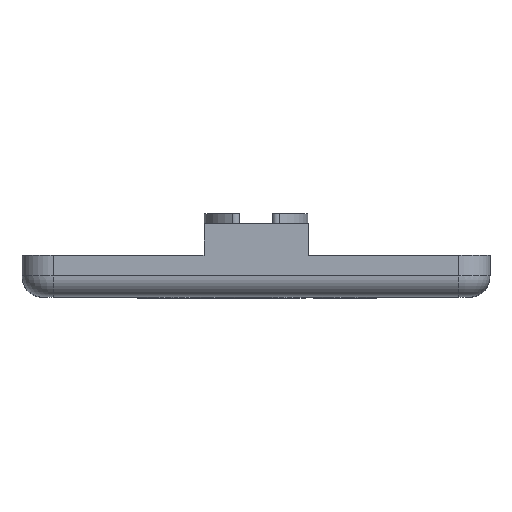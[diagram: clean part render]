
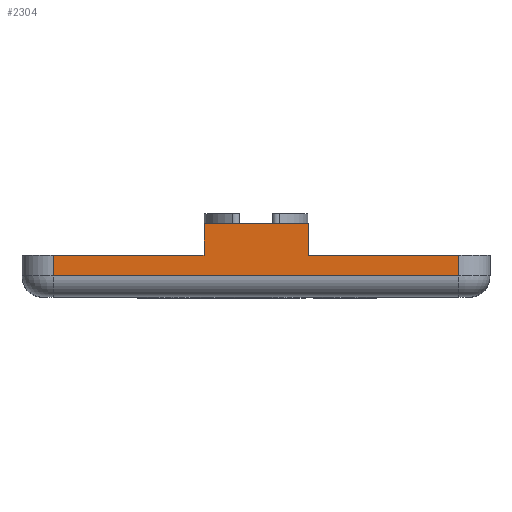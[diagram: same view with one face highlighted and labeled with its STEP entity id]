
A CAD part, top view. The second image highlights one B-rep face of the part: STEP entity #2304.
In plain terms, the highlighted planar face has unit normal (0, 0, 1).
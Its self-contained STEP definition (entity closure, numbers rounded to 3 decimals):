
#48 = VECTOR ( 'NONE', #3019, 1000. ) ;
#308 = VECTOR ( 'NONE', #5649, 1000. ) ;
#472 = EDGE_CURVE ( 'NONE', #4361, #5125, #7328, .T. ) ;
#566 = EDGE_CURVE ( 'NONE', #3363, #1179, #6401, .T. ) ;
#793 = DIRECTION ( 'NONE',  ( 1., 0., 0. ) ) ;
#956 = VECTOR ( 'NONE', #6989, 1000. ) ;
#1144 = EDGE_CURVE ( 'NONE', #1179, #7722, #4901, .T. ) ;
#1179 = VERTEX_POINT ( 'NONE', #4039 ) ;
#1435 = ORIENTED_EDGE ( 'NONE', *, *, #566, .F. ) ;
#1478 = VERTEX_POINT ( 'NONE', #7735 ) ;
#1635 = ORIENTED_EDGE ( 'NONE', *, *, #5479, .F. ) ;
#1816 = ORIENTED_EDGE ( 'NONE', *, *, #472, .T. ) ;
#1912 = CARTESIAN_POINT ( 'NONE',  ( -5., 4., 22.5 ) ) ;
#2084 = DIRECTION ( 'NONE',  ( 0., -1., 0. ) ) ;
#2304 = ADVANCED_FACE ( 'NONE', ( #2918 ), #5999, .F. ) ;
#2358 = CARTESIAN_POINT ( 'NONE',  ( -5., 7., 22.5 ) ) ;
#2359 = VERTEX_POINT ( 'NONE', #1912 ) ;
#2371 = CARTESIAN_POINT ( 'NONE',  ( -19.5, 4., 22.5 ) ) ;
#2409 = DIRECTION ( 'NONE',  ( 0., 0., -1. ) ) ;
#2480 = CARTESIAN_POINT ( 'NONE',  ( -19.5, 4., 22.5 ) ) ;
#2808 = ORIENTED_EDGE ( 'NONE', *, *, #3825, .F. ) ;
#2918 = FACE_OUTER_BOUND ( 'NONE', #4254, .T. ) ;
#2921 = CARTESIAN_POINT ( 'NONE',  ( 19.5, 4., 22.5 ) ) ;
#2958 = DIRECTION ( 'NONE',  ( 1., 0., 0. ) ) ;
#3019 = DIRECTION ( 'NONE',  ( 0., -1., 0. ) ) ;
#3152 = VECTOR ( 'NONE', #2958, 1000. ) ;
#3161 = EDGE_CURVE ( 'NONE', #1478, #2359, #7789, .T. ) ;
#3192 = ORIENTED_EDGE ( 'NONE', *, *, #5592, .T. ) ;
#3203 = EDGE_CURVE ( 'NONE', #1478, #3363, #4020, .T. ) ;
#3363 = VERTEX_POINT ( 'NONE', #6227 ) ;
#3513 = VERTEX_POINT ( 'NONE', #4416 ) ;
#3521 = CARTESIAN_POINT ( 'NONE',  ( -19.5, 2., 22.5 ) ) ;
#3536 = CARTESIAN_POINT ( 'NONE',  ( 19.5, 4., 22.5 ) ) ;
#3743 = CARTESIAN_POINT ( 'NONE',  ( -19.5, 2., 22.5 ) ) ;
#3803 = LINE ( 'NONE', #3536, #48 ) ;
#3825 = EDGE_CURVE ( 'NONE', #4361, #2359, #7776, .T. ) ;
#3871 = CARTESIAN_POINT ( 'NONE',  ( 5., 7., 22.5 ) ) ;
#4020 = LINE ( 'NONE', #4985, #5623 ) ;
#4039 = CARTESIAN_POINT ( 'NONE',  ( 5., 4., 22.5 ) ) ;
#4254 = EDGE_LOOP ( 'NONE', ( #1816, #3192, #1635, #6217, #1435, #6005, #4412, #2808 ) ) ;
#4353 = CARTESIAN_POINT ( 'NONE',  ( -19.5, 4., 22.5 ) ) ;
#4361 = VERTEX_POINT ( 'NONE', #2480 ) ;
#4412 = ORIENTED_EDGE ( 'NONE', *, *, #3161, .T. ) ;
#4416 = CARTESIAN_POINT ( 'NONE',  ( 19.5, 2., 22.5 ) ) ;
#4582 = VECTOR ( 'NONE', #7166, 1000. ) ;
#4790 = CARTESIAN_POINT ( 'NONE',  ( -19.5, 4., 22.5 ) ) ;
#4901 = LINE ( 'NONE', #4353, #308 ) ;
#4985 = CARTESIAN_POINT ( 'NONE',  ( -5., 7., 22.5 ) ) ;
#5125 = VERTEX_POINT ( 'NONE', #3521 ) ;
#5307 = LINE ( 'NONE', #3743, #5500 ) ;
#5479 = EDGE_CURVE ( 'NONE', #7722, #3513, #3803, .T. ) ;
#5500 = VECTOR ( 'NONE', #7345, 1000. ) ;
#5592 = EDGE_CURVE ( 'NONE', #5125, #3513, #5307, .T. ) ;
#5623 = VECTOR ( 'NONE', #793, 1000. ) ;
#5649 = DIRECTION ( 'NONE',  ( 1., 0., 0. ) ) ;
#5861 = CARTESIAN_POINT ( 'NONE',  ( -19.5, 4., 22.5 ) ) ;
#5999 = PLANE ( 'NONE',  #7444 ) ;
#6005 = ORIENTED_EDGE ( 'NONE', *, *, #3203, .F. ) ;
#6192 = VECTOR ( 'NONE', #2084, 1000. ) ;
#6217 = ORIENTED_EDGE ( 'NONE', *, *, #1144, .F. ) ;
#6227 = CARTESIAN_POINT ( 'NONE',  ( 5., 7., 22.5 ) ) ;
#6401 = LINE ( 'NONE', #3871, #6192 ) ;
#6631 = DIRECTION ( 'NONE',  ( -1., 0., 0. ) ) ;
#6989 = DIRECTION ( 'NONE',  ( 0., -1., 0. ) ) ;
#7166 = DIRECTION ( 'NONE',  ( 0., -1., 0. ) ) ;
#7328 = LINE ( 'NONE', #5861, #956 ) ;
#7345 = DIRECTION ( 'NONE',  ( 1., 0., 0. ) ) ;
#7444 = AXIS2_PLACEMENT_3D ( 'NONE', #4790, #2409, #6631 ) ;
#7722 = VERTEX_POINT ( 'NONE', #2921 ) ;
#7735 = CARTESIAN_POINT ( 'NONE',  ( -5., 7., 22.5 ) ) ;
#7776 = LINE ( 'NONE', #2371, #3152 ) ;
#7789 = LINE ( 'NONE', #2358, #4582 ) ;
